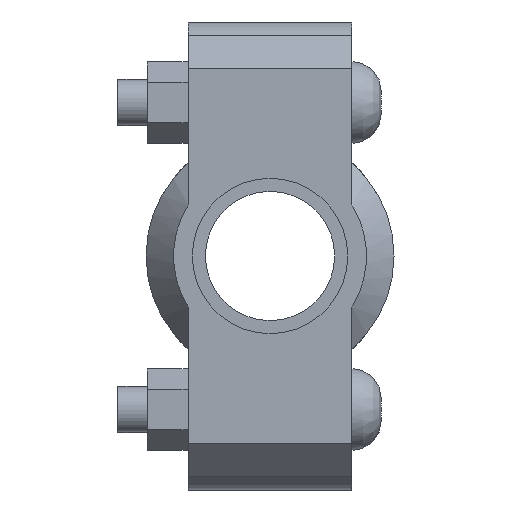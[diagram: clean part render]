
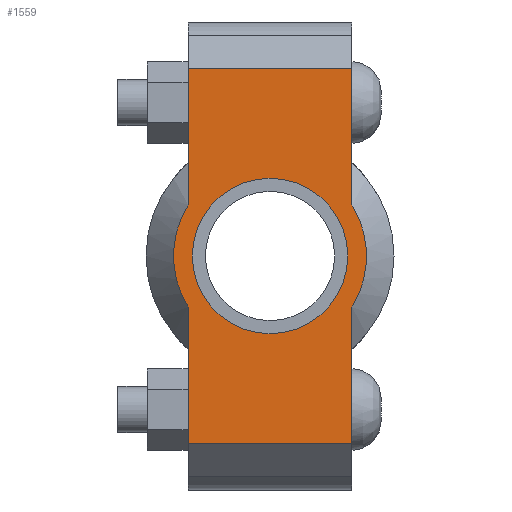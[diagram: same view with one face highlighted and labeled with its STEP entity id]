
A CAD part, left-side view. The second image highlights one B-rep face of the part: STEP entity #1559.
In plain terms, the highlighted planar face has unit normal (-1, 0, 0) as drawn and (0, 0, 1) by its records, which use the part's own axes.
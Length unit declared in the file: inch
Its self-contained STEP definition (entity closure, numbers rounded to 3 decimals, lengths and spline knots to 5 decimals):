
#170=LINE('',#2679,#265);
#185=LINE('',#2738,#280);
#193=LINE('',#2768,#288);
#195=LINE('',#2771,#290);
#196=LINE('',#2776,#291);
#197=LINE('',#2777,#292);
#265=VECTOR('',#2161,0.3937);
#280=VECTOR('',#2196,0.3937);
#288=VECTOR('',#2216,0.3937);
#290=VECTOR('',#2220,0.3937);
#291=VECTOR('',#2225,0.3937);
#292=VECTOR('',#2226,0.3937);
#352=FACE_BOUND('',#511,.T.);
#412=FACE_OUTER_BOUND('',#510,.T.);
#510=EDGE_LOOP('',(#1254,#1255,#1256,#1257,#1258,#1259,#1260,#1261));
#511=EDGE_LOOP('',(#1262));
#616=CIRCLE('',#1822,1.031);
#617=CIRCLE('',#1823,1.031);
#618=CIRCLE('',#1824,0.83);
#725=VERTEX_POINT('',#2676);
#726=VERTEX_POINT('',#2678);
#747=VERTEX_POINT('',#2733);
#748=VERTEX_POINT('',#2737);
#757=VERTEX_POINT('',#2763);
#758=VERTEX_POINT('',#2767);
#759=VERTEX_POINT('',#2773);
#760=VERTEX_POINT('',#2775);
#761=VERTEX_POINT('',#2779);
#895=EDGE_CURVE('',#726,#725,#170,.T.);
#920=EDGE_CURVE('',#748,#747,#185,.T.);
#933=EDGE_CURVE('',#758,#757,#193,.T.);
#935=EDGE_CURVE('',#758,#725,#195,.T.);
#936=EDGE_CURVE('',#757,#759,#616,.T.);
#937=EDGE_CURVE('',#759,#760,#196,.T.);
#938=EDGE_CURVE('',#748,#760,#197,.T.);
#939=EDGE_CURVE('',#747,#726,#617,.T.);
#940=EDGE_CURVE('',#761,#761,#618,.T.);
#1254=ORIENTED_EDGE('',*,*,#935,.F.);
#1255=ORIENTED_EDGE('',*,*,#933,.T.);
#1256=ORIENTED_EDGE('',*,*,#936,.T.);
#1257=ORIENTED_EDGE('',*,*,#937,.T.);
#1258=ORIENTED_EDGE('',*,*,#938,.F.);
#1259=ORIENTED_EDGE('',*,*,#920,.T.);
#1260=ORIENTED_EDGE('',*,*,#939,.T.);
#1261=ORIENTED_EDGE('',*,*,#895,.T.);
#1262=ORIENTED_EDGE('',*,*,#940,.T.);
#1411=PLANE('',#1821);
#1559=ADVANCED_FACE('',(#412,#352),#1411,.T.);
#1821=AXIS2_PLACEMENT_3D('',#2772,#2221,#2222);
#1822=AXIS2_PLACEMENT_3D('',#2774,#2223,#2224);
#1823=AXIS2_PLACEMENT_3D('',#2778,#2227,#2228);
#1824=AXIS2_PLACEMENT_3D('',#2780,#2229,#2230);
#2161=DIRECTION('',(1.,0.,0.));
#2196=DIRECTION('',(1.,0.,0.));
#2216=DIRECTION('',(-1.,0.,0.));
#2220=DIRECTION('',(0.,-1.,0.));
#2221=DIRECTION('center_axis',(0.,0.,1.));
#2222=DIRECTION('ref_axis',(-1.,0.,0.));
#2223=DIRECTION('center_axis',(0.,0.,1.));
#2224=DIRECTION('ref_axis',(1.,0.,0.));
#2225=DIRECTION('',(-1.,0.,0.));
#2226=DIRECTION('',(0.,1.,0.));
#2227=DIRECTION('center_axis',(0.,0.,1.));
#2228=DIRECTION('ref_axis',(1.,0.,0.));
#2229=DIRECTION('center_axis',(0.,0.,-1.));
#2230=DIRECTION('ref_axis',(1.,0.,0.));
#2676=CARTESIAN_POINT('',(2.,-0.875,0.94));
#2678=CARTESIAN_POINT('',(0.54529,-0.875,0.94));
#2679=CARTESIAN_POINT('',(-2.5,-0.875,0.94));
#2733=CARTESIAN_POINT('',(-0.54529,-0.875,0.94));
#2737=CARTESIAN_POINT('',(-2.,-0.875,0.94));
#2738=CARTESIAN_POINT('',(-2.5,-0.875,0.94));
#2763=CARTESIAN_POINT('',(0.54529,0.875,0.94));
#2767=CARTESIAN_POINT('',(2.,0.875,0.94));
#2768=CARTESIAN_POINT('',(2.5,0.875,0.94));
#2771=CARTESIAN_POINT('',(2.,-0.4375,0.94));
#2772=CARTESIAN_POINT('Origin',(0.,0.,
0.94));
#2773=CARTESIAN_POINT('',(-0.54529,0.875,0.94));
#2774=CARTESIAN_POINT('Origin',(0.,0.,0.94));
#2775=CARTESIAN_POINT('',(-2.,0.875,0.94));
#2776=CARTESIAN_POINT('',(2.5,0.875,0.94));
#2777=CARTESIAN_POINT('',(-2.,0.4375,0.94));
#2778=CARTESIAN_POINT('Origin',(0.,0.,0.94));
#2779=CARTESIAN_POINT('',(-0.83,0.,0.94));
#2780=CARTESIAN_POINT('Origin',(0.,0.,0.94));
